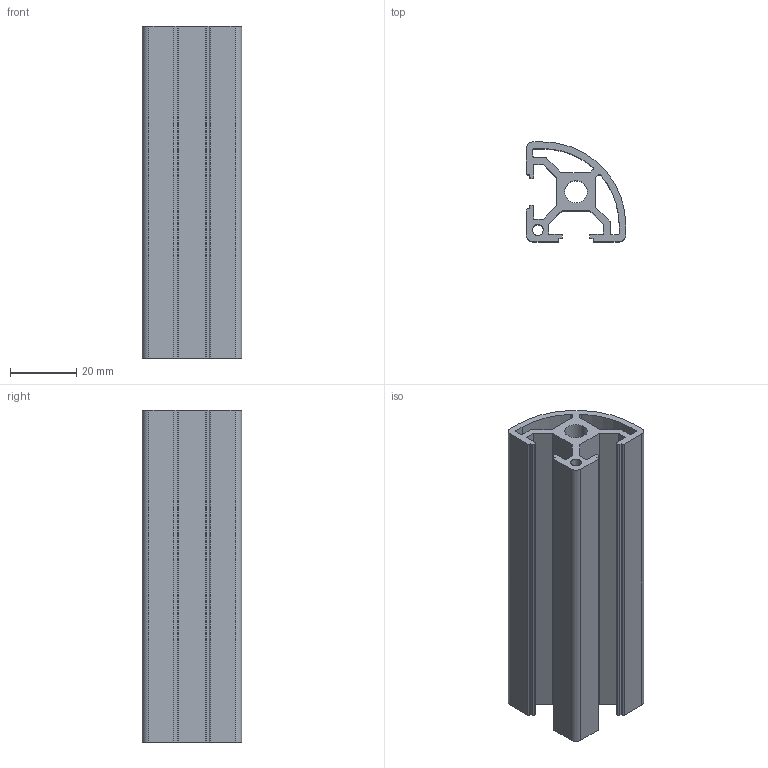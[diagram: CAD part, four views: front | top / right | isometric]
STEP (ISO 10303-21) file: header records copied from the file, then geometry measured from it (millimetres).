
FILE_DESCRIPTION((''),'2;1');
FILE_NAME('E:\catalogue and flyer\Profile catalogue 2015\profile-step file,31MAr16\PS3030CR-8.stp','2016-03-31T13:47:24',('h029'),(''),'Autodesk Inventor 11','Autodesk Inventor 11','');
FILE_SCHEMA(('AUTOMOTIVE_DESIGN { 1 0 10303 214 1 1 1 1 }'));
Length unit declared in the file: millimetre
Products named in the file (1): ps3030CR-8
Bounding box: 30 x 30 x 100 mm (x, y, z)
Volume: 32683.6 mm3; surface area: 28975.9 mm2
Topology: 1 solids, 1 shells, 78 faces, 228 edges, 152 vertices
Faces by surface type: plane 46, cylinder 32
Full cylindrical faces by diameter (mm): 3.3 x1, 6.8 x1
Entity records: 2625 total; most frequent: CARTESIAN_POINT 457, ORIENTED_EDGE 452, DIRECTION 448, EDGE_CURVE 226, VECTOR 162, LINE 162, VERTEX_POINT 152, AXIS2_PLACEMENT_3D 143
